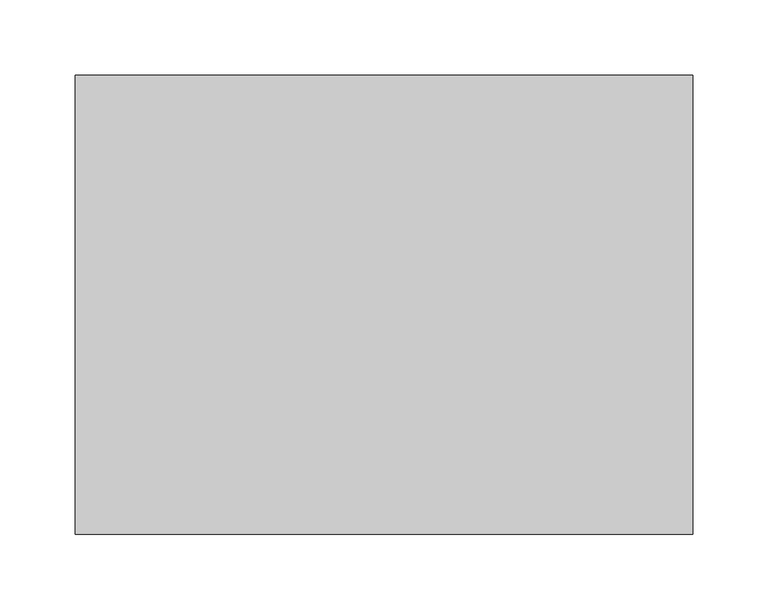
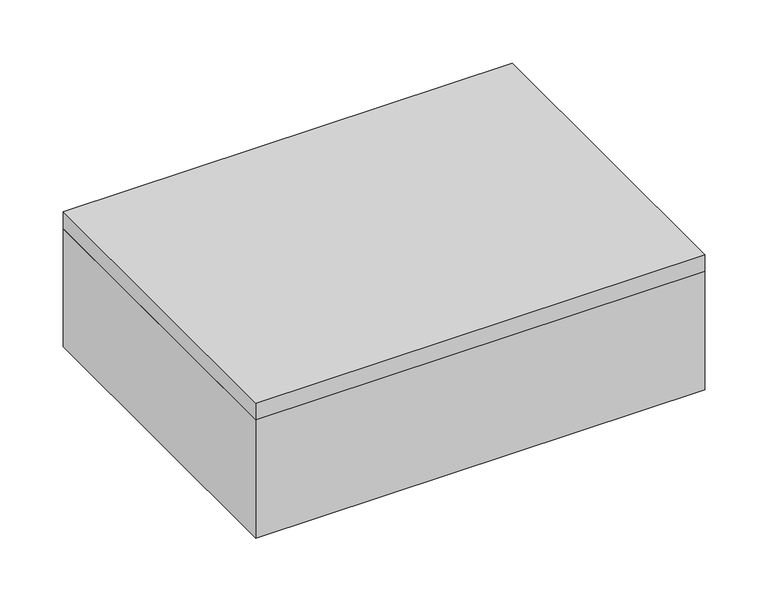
"""IFC4 building model written with IfcOpenShell, lengths in millimetres: cable carrier fitting geometry."""

from ifc_helpers import new_model, si_unit, origin, place, context, project, spatial, faceted_brep, source, transform, mapped, element, save


def cable_carrier_fitting_6735ebb1(model_context):
    return source(origin(), model_context, "Body", "Brep", [
        faceted_brep([(204.5, 152.0, 130.0), (-204.5, 152.0, 130.0), (-204.5, -152.0, 130.0), (204.5, -152.0, 130.0), (-202.5, -150.0, 128.0), (-202.5, 150.0, 128.0), (202.5, 150.0, 128.0), (202.5, -150.0, 128.0), (204.5, 152.0, 114.0), (204.5, -152.0, 114.0), (-204.5, -152.0, 114.0), (-204.5, 152.0, 114.0), (-202.5, -150.0, 114.0), (202.5, -150.0, 114.0), (202.5, 150.0, 114.0), (-202.5, 150.0, 114.0)], [[[0, 1, 2, 3]], [[4, 5, 6, 7]], [[8, 9, 10, 11], [12, 13, 14, 15]], [[1, 0, 8, 11]], [[2, 1, 11, 10]], [[3, 2, 10, 9]], [[0, 3, 9, 8]], [[12, 15, 5, 4]], [[15, 14, 6, 5]], [[14, 13, 7, 6]], [[13, 12, 4, 7]]]),
        faceted_brep([(-202.5, -150.0, 2.0), (202.5, -150.0, 2.0), (202.5, 150.0, 2.0), (-202.5, 150.0, 2.0), (204.5, 152.0, 0.0), (204.5, -152.0, 0.0), (-204.5, -152.0, 0.0), (-204.5, 152.0, 0.0), (204.5, 152.0, 114.0), (-204.5, 152.0, 114.0), (-204.5, -152.0, 114.0), (204.5, -152.0, 114.0), (202.5, -150.0, 114.0), (-202.5, -150.0, 114.0), (-202.5, 150.0, 114.0), (202.5, 150.0, 114.0)], [[[0, 1, 2, 3]], [[4, 5, 6, 7]], [[8, 9, 10, 11], [12, 13, 14, 15]], [[9, 8, 4, 7]], [[10, 9, 7, 6]], [[11, 10, 6, 5]], [[8, 11, 5, 4]], [[13, 12, 1, 0]], [[14, 13, 0, 3]], [[15, 14, 3, 2]], [[12, 15, 2, 1]]]),
    ])


if __name__ == "__main__":
    model = new_model("IFC4")
    model_context = context("Model", 3, world=origin())
    ifc_project = project(units=[si_unit("LENGTHUNIT", "METRE", prefix="MILLI")], contexts=[model_context])
    site = spatial("IfcSite", under=ifc_project)
    building = spatial("IfcBuilding", under=site)
    placement = place(None, origin())
    cable_carrier_fitting_shape = cable_carrier_fitting_6735ebb1(model_context)
    element("IfcCableCarrierFitting", 1, at=placement, inside=building, context=model_context, shape_type="MappedRepresentation", body=[
        mapped(cable_carrier_fitting_shape, transform((0.0, 0.0, 0.0), x_axis=(1.0, 0.0, 0.0), y_axis=(0.0, 1.0, 0.0), z_axis=(0.0, 0.0, 1.0))),
    ])
    save(model, "model.ifc")
